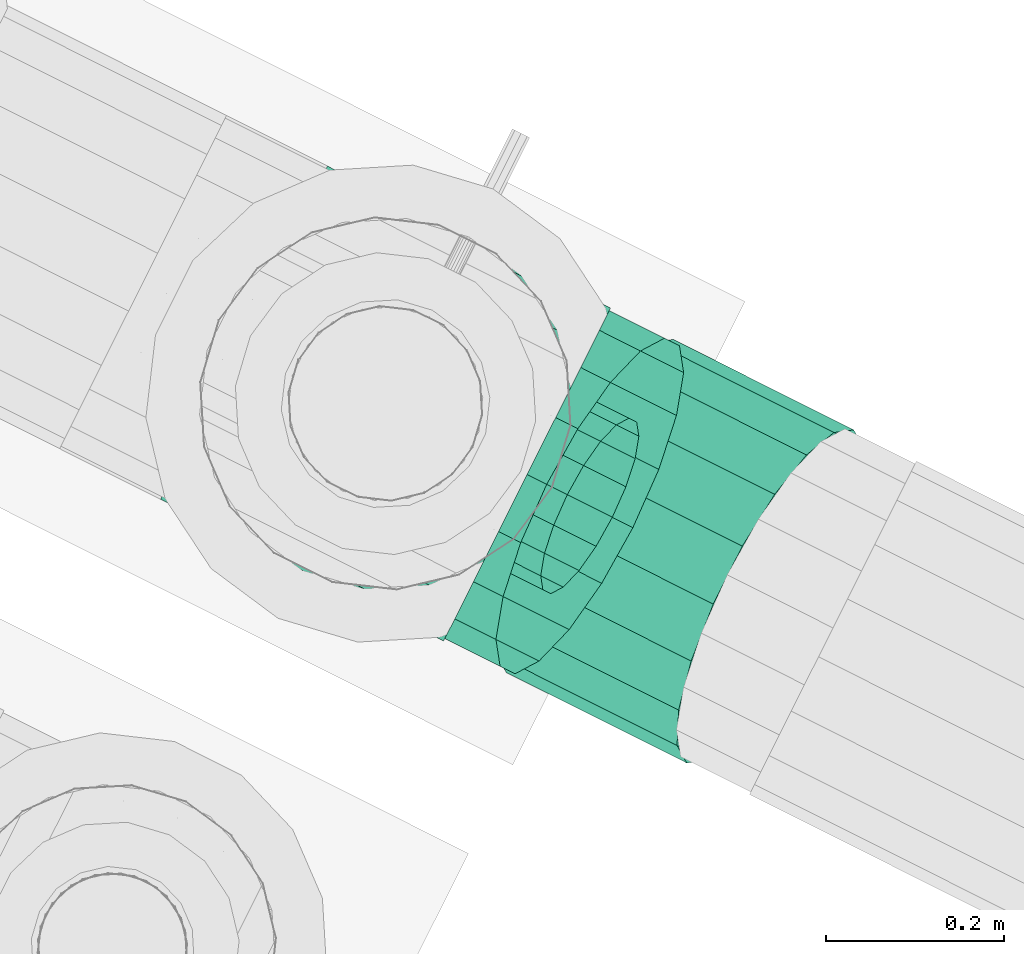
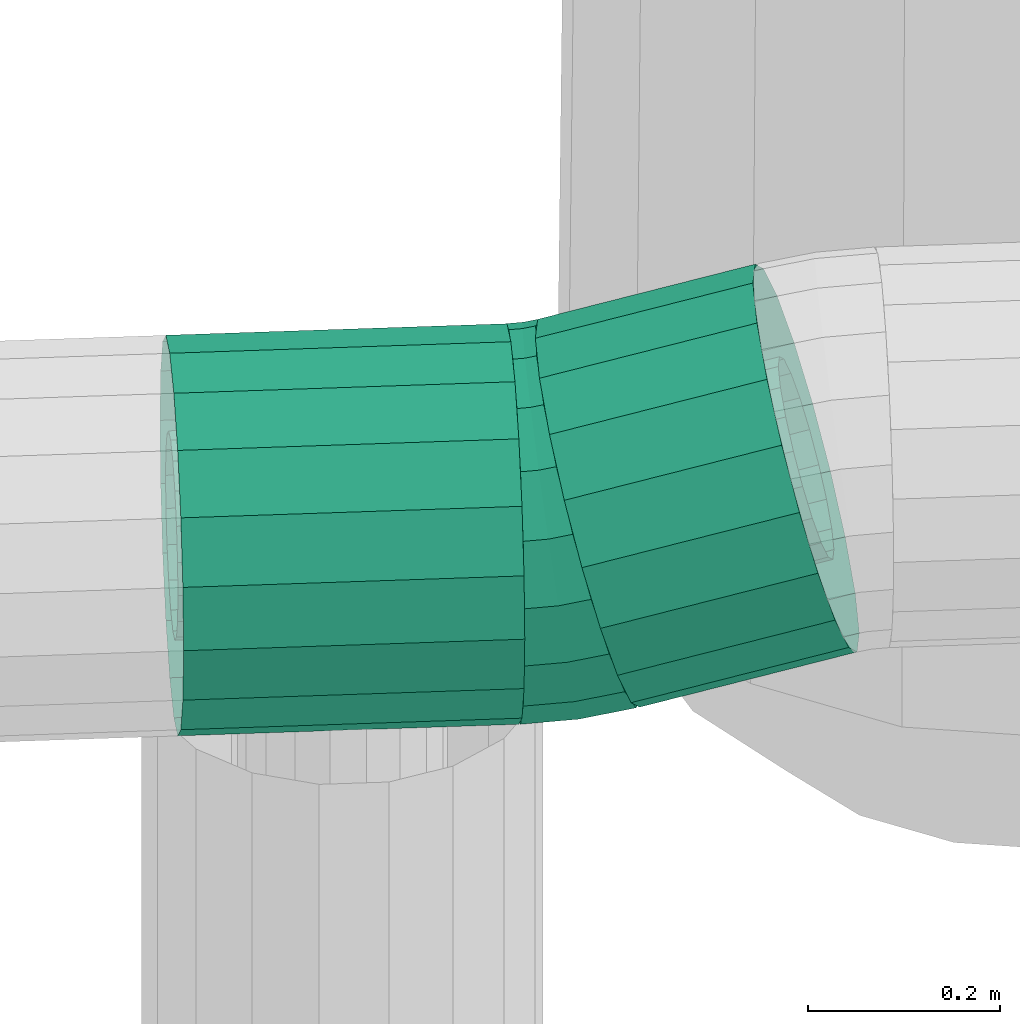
# One storey, part 142 of 152: 2 flow segments, 1 flow fitting.
"""IFC2X3 building model written with IfcOpenShell, lengths in metres."""

from ifc_helpers import new_model, si_unit, derived_unit, direction, frame, origin, place, context, subcontext, project, spatial, face_set, surface_model, source, transform, mapped, material, type_object, type_shapes, element, save


model = new_model("IFC2X3")

# Units and contexts
model_context = context("Model", 3, precision=5.2338327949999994e-05, world=origin(), true_north=direction((0.0, 1.0)))
body_context = subcontext(model_context, "Body", "Model", "MODEL_VIEW")
ifc_project = project(units=[si_unit("LENGTHUNIT", "METRE"), si_unit("AREAUNIT", "SQUARE_METRE"), si_unit("VOLUMEUNIT", "CUBIC_METRE"), si_unit("MASSUNIT", "GRAM", prefix="KILO"), si_unit("PLANEANGLEUNIT", "RADIAN"), derived_unit("THERMALTRANSMITTANCEUNIT", [(si_unit("MASSUNIT", "GRAM", prefix="KILO"), 1), (si_unit("THERMODYNAMICTEMPERATUREUNIT", "KELVIN"), -1), (si_unit("TIMEUNIT", "SECOND"), -3)])], contexts=[model_context])

# Site, building, storey
site_placement = place(None, frame((0.0, 0.0, 0.0), z_axis=(0.0, 0.0, 1.0), x_axis=(0.8939966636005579, -0.4480736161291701, 0.0)))
site = spatial("IfcSite", under=ifc_project, at=site_placement, Name="Default", CompositionType="ELEMENT")
building_placement = place(site_placement, origin())
building = spatial("IfcBuilding", under=site, at=building_placement, CompositionType="ELEMENT")
storey_placement = place(building_placement, frame((0.0, 0.0, 2.7499999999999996)))
storey = spatial("IfcBuildingStorey", under=building, at=storey_placement, Name="1. Obergeschoss", CompositionType="ELEMENT", Elevation=2.7499999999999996)

# Flow fitting
ifc_material = material(Name="IfcSurfaceStyle #1741")
distribution_element_type_1 = type_object("IfcDistributionElementType", Name="Abzweigstück 247876:Abzweigstück 247876", material=ifc_material)
shared_shape_1 = source(origin(), body_context, "Body", "SurfaceModel", [
    surface_model("IfcFaceBasedSurfaceModel", [(11.903814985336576, 7.902658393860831, 5.554028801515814), (11.903814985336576, 7.909265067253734, 5.591497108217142), (11.547814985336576, 7.909265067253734, 5.591497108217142), (11.547814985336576, 7.902658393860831, 5.554028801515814), (11.903814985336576, 7.928288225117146, 5.624446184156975), (11.547814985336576, 7.928288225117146, 5.624446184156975), (11.903814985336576, 7.957433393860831, 5.6489018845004), (11.547814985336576, 7.957433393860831, 5.6489018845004), (11.903814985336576, 7.993185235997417, 5.661914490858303), (11.547814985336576, 7.993185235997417, 5.661914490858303), (11.903814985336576, 8.03123155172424, 5.661914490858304), (11.547814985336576, 8.03123155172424, 5.661914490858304), (11.903814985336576, 8.06698339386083, 5.648901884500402), (11.547814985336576, 8.06698339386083, 5.648901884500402), (11.903814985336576, 8.096128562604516, 5.624446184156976), (11.547814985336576, 8.096128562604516, 5.624446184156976), (11.903814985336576, 8.115151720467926, 5.591497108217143), (11.547814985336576, 8.115151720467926, 5.591497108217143), (11.903814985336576, 8.121758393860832, 5.554028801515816), (11.547814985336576, 8.121758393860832, 5.554028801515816), (11.903814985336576, 8.115151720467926, 5.516560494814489), (11.547814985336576, 8.115151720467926, 5.516560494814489), (11.903814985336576, 8.096128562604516, 5.483611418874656), (11.547814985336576, 8.096128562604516, 5.483611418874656), (11.903814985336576, 8.06698339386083, 5.45915571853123), (11.547814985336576, 8.06698339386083, 5.45915571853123), (11.903814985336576, 8.031231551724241, 5.446143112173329), (11.547814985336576, 8.031231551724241, 5.446143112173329), (11.903814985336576, 7.9931852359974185, 5.446143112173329), (11.547814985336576, 7.9931852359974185, 5.446143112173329), (11.903814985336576, 7.957433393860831, 5.459155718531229), (11.547814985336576, 7.957433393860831, 5.459155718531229), (11.903814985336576, 7.928288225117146, 5.483611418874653), (11.547814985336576, 7.928288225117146, 5.483611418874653), (11.903814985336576, 7.909265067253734, 5.516560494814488), (11.547814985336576, 7.909265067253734, 5.516560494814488), (11.903814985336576, 7.8026583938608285, 5.5540288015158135), (11.903814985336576, 7.815295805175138, 5.625699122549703), (11.547814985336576, 7.8152958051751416, 5.625699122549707), (11.547814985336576, 7.80265839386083, 5.5540288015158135), (11.903814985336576, 7.851683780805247, 5.688724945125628), (11.547814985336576, 7.851683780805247, 5.688724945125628), (11.903814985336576, 7.90743339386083, 5.735504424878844), (11.547814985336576, 7.90743339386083, 5.735504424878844), (11.903814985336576, 7.975820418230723, 5.760395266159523), (11.547814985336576, 7.975820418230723, 5.760395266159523), (11.903814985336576, 8.048596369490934, 5.760395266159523), (11.547814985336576, 8.048596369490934, 5.760395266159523), (11.903814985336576, 8.11698339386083, 5.735504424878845), (11.547814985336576, 8.11698339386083, 5.735504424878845), (11.903814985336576, 8.172733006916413, 5.6887249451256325), (11.547814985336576, 8.172733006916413, 5.6887249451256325), (11.903814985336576, 8.209120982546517, 5.625699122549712), (11.547814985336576, 8.209120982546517, 5.625699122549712), (11.903814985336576, 8.22175839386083, 5.554028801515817), (11.547814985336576, 8.22175839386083, 5.554028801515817), (11.903814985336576, 8.20912098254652, 5.482358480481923), (11.547814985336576, 8.20912098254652, 5.482358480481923), (11.903814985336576, 8.172733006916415, 5.419332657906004), (11.547814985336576, 8.172733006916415, 5.419332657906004), (11.903814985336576, 8.11698339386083, 5.372553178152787), (11.547814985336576, 8.11698339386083, 5.372553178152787), (11.903814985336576, 8.048596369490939, 5.347662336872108), (11.547814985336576, 8.048596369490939, 5.347662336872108), (11.903814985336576, 7.975820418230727, 5.347662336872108), (11.547814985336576, 7.975820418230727, 5.347662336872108), (11.903814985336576, 7.907433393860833, 5.372553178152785), (11.547814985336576, 7.907433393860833, 5.372553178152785), (11.903814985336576, 7.851683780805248, 5.419332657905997), (11.547814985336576, 7.851683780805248, 5.419332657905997), (11.903814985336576, 7.815295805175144, 5.4823584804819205), (11.547814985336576, 7.815295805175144, 5.4823584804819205), (11.616264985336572, 8.012208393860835, 5.444478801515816), (11.622871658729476, 8.04967670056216, 5.451085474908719), (11.62287165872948, 8.04967670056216, 5.376028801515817), (11.616264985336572, 8.012208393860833, 5.376028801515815), (11.641894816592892, 8.082625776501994, 5.470108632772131), (11.641894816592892, 8.082625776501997, 5.376028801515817), (11.671039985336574, 8.10708147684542, 5.499253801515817), (11.671039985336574, 8.10708147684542, 5.376028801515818), (11.706791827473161, 8.120094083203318, 5.535005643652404), (11.706791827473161, 8.12009408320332, 5.376028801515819), (11.744838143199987, 8.120094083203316, 5.535005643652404), (11.744838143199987, 8.12009408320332, 5.376028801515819), (11.780589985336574, 8.10708147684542, 5.499253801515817), (11.780589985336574, 8.10708147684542, 5.376028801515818), (11.80973515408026, 8.082625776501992, 5.470108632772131), (11.80973515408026, 8.082625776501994, 5.376028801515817), (11.82875831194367, 8.04967670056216, 5.451085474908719), (11.82875831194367, 8.04967670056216, 5.376028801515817), (11.835364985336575, 8.012208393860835, 5.444478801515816), (11.835364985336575, 8.012208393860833, 5.376028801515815), (11.82875831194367, 7.974740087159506, 5.4510854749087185), (11.82875831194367, 7.974740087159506, 5.376028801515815), (11.80973515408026, 7.941791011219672, 5.4701086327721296), (11.80973515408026, 7.941791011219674, 5.376028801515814), (11.780589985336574, 7.91733531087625, 5.499253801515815), (11.780589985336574, 7.917335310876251, 5.376028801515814), (11.744838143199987, 7.904322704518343, 5.5350056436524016), (11.744838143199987, 7.904322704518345, 5.376028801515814), (11.706791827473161, 7.904322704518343, 5.5350056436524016), (11.706791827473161, 7.904322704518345, 5.376028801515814), (11.671039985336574, 7.91733531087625, 5.499253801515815), (11.671039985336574, 7.917335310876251, 5.376028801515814), (11.641894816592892, 7.941791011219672, 5.4701086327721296), (11.641894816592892, 7.9417910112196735, 5.376028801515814), (11.62287165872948, 7.974740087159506, 5.4510854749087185), (11.62287165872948, 7.974740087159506, 5.376028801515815)], [face_set([[[0, 1, 2, 3]], [[1, 4, 5, 2]], [[4, 6, 7, 5]], [[6, 8, 9, 7]], [[8, 10, 11, 9]], [[10, 12, 13, 11]], [[12, 14, 15, 13]], [[14, 16, 17, 15]], [[16, 18, 19, 17]], [[18, 20, 21, 19]], [[20, 22, 23, 21]], [[22, 24, 25, 23]], [[24, 26, 27, 25]], [[26, 28, 29, 27]], [[28, 30, 31, 29]], [[30, 32, 33, 31]], [[32, 34, 35, 33]], [[34, 0, 3, 35]], [[36, 37, 38, 39]], [[37, 40, 41, 38]], [[40, 42, 43, 41]], [[42, 44, 45, 43]], [[44, 46, 47, 45]], [[46, 48, 49, 47]], [[48, 50, 51, 49]], [[50, 52, 53, 51]], [[52, 54, 55, 53]], [[54, 56, 57, 55]], [[56, 58, 59, 57]], [[58, 60, 61, 59]], [[60, 62, 63, 61]], [[62, 64, 65, 63]], [[64, 66, 67, 65]], [[66, 68, 69, 67]], [[68, 70, 71, 69]], [[70, 36, 39, 71]], [[72, 73, 74, 75]], [[73, 76, 77, 74]], [[76, 78, 79, 77]], [[78, 80, 81, 79]], [[80, 82, 83, 81]], [[82, 84, 85, 83]], [[84, 86, 87, 85]], [[86, 88, 89, 87]], [[88, 90, 91, 89]], [[90, 92, 93, 91]], [[92, 94, 95, 93]], [[94, 96, 97, 95]], [[96, 98, 99, 97]], [[98, 100, 101, 99]], [[100, 102, 103, 101]], [[102, 104, 105, 103]], [[104, 106, 107, 105]], [[106, 72, 75, 107]]])]),
])
type_shapes(distribution_element_type_1, [shared_shape_1])
flow_fitting_placement = place(storey_placement, frame((0.0, 0.0, -2.7499999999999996)))
element("IfcFlowFitting", 1, at=flow_fitting_placement, inside=storey, type_object=distribution_element_type_1, material=ifc_material, Name="Abzweigstück", ObjectType="Abzweigstück", context=body_context, shape_type="MappedRepresentation", body=[
    mapped(shared_shape_1, transform((0.0, 0.0, 0.0), scale=1.0)),
])

# Flow segments
distribution_element_type_2 = type_object("IfcDistributionElementType", Name="Rohrbogen 248180:Rohrbogen 248180", material=ifc_material)
shared_shape_2 = source(origin(), body_context, "Body", "SurfaceModel", [
    surface_model("IfcFaceBasedSurfaceModel", [(12.011108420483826, 8.012208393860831, 5.458604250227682), (12.00939848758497, 7.974740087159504, 5.464985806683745), (11.957062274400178, 7.974740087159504, 5.454575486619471), (11.957924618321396, 8.012208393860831, 5.448025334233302), (11.903814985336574, 7.974740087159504, 5.4510854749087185), (11.903814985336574, 8.012208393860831, 5.444478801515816), (12.004474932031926, 7.941791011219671, 5.4833607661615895), (11.954579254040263, 7.94179101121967, 5.473435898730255), (11.90381498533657, 7.94179101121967, 5.47010863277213), (11.996931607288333, 7.917335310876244, 5.511512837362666), (11.950775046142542, 7.917335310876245, 5.502331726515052), (11.903814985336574, 7.917335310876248, 5.499253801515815), (11.987678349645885, 7.904322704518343, 5.5460464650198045), (11.946108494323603, 7.904322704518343, 5.537777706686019), (11.90381498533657, 7.904322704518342, 5.535005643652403), (11.977831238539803, 7.904322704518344, 5.582796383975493), (11.941142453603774, 7.904322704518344, 5.575498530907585), (11.90381498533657, 7.904322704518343, 5.573051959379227), (11.968577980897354, 7.917335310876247, 5.6173300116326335), (11.936475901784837, 7.917335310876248, 5.610944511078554), (11.903814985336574, 7.917335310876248, 5.608803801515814), (11.961034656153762, 7.941791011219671, 5.645482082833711), (11.932671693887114, 7.94179101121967, 5.63984033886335), (11.90381498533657, 7.94179101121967, 5.637948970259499), (11.956111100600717, 7.974740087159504, 5.6638570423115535), (11.930188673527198, 7.974740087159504, 5.658700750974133), (11.90381498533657, 7.974740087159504, 5.656972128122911), (11.954401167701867, 8.012208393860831, 5.670238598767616), (11.929326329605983, 8.012208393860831, 5.665250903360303), (11.903814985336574, 8.012208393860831, 5.663578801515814), (11.956111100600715, 8.04967670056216, 5.6638570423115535), (11.930188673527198, 8.04967670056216, 5.658700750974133), (11.90381498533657, 8.049676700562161, 5.656972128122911), (11.96103465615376, 8.082625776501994, 5.645482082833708), (11.93267169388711, 8.082625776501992, 5.63984033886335), (11.903814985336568, 8.082625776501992, 5.637948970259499), (11.968577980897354, 8.107081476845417, 5.617330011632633), (11.936475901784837, 8.10708147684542, 5.610944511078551), (11.903814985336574, 8.10708147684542, 5.608803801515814), (11.977831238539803, 8.12009408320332, 5.5827963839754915), (11.941142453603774, 8.12009408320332, 5.575498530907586), (11.90381498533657, 8.120094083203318, 5.573051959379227), (11.987678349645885, 8.12009408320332, 5.5460464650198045), (11.946108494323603, 8.120094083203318, 5.537777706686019), (11.90381498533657, 8.120094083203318, 5.535005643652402), (11.996931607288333, 8.107081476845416, 5.511512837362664), (11.950775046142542, 8.107081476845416, 5.5023317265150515), (11.903814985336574, 8.10708147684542, 5.499253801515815), (12.004474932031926, 8.082625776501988, 5.4833607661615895), (11.954579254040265, 8.08262577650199, 5.473435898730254), (11.90381498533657, 8.082625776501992, 5.4701086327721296), (12.009398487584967, 8.049676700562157, 5.464985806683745), (11.957062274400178, 8.049676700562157, 5.45457548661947), (11.903814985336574, 8.049676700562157, 5.4510854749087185), (12.036990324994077, 8.012208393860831, 5.362011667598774), (12.033719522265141, 7.940538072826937, 5.374218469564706), (11.969327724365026, 7.9405380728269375, 5.3614101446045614), (11.970977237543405, 8.012208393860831, 5.34888084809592), (11.903814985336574, 7.9405380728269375, 5.357116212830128), (11.903814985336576, 8.012208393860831, 5.344478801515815), (12.024301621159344, 7.877512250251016, 5.409366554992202), (11.96457814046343, 7.877512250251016, 5.397486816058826), (11.90381498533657, 7.877512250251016, 5.393504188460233), (12.009872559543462, 7.830732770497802, 5.463216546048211), (11.957301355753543, 7.830732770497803, 5.4527594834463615), (11.903814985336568, 7.830732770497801, 5.449253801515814), (11.992172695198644, 7.805841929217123, 5.529273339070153), (11.948375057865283, 7.805841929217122, 5.520561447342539), (11.903814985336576, 7.805841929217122, 5.5176408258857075), (11.973336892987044, 7.805841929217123, 5.5995695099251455), (11.938875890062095, 7.805841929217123, 5.592714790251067), (11.903814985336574, 7.805841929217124, 5.5904167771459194), (11.955637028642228, 7.830732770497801, 5.6656263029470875), (11.929949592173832, 7.830732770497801, 5.660516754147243), (11.90381498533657, 7.830732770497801, 5.658803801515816), (11.941207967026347, 7.877512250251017, 5.719476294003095), (11.922672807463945, 7.877512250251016, 5.715789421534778), (11.903814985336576, 7.877512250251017, 5.714553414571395), (11.931790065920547, 7.9405380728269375, 5.754624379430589), (11.917923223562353, 7.9405380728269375, 5.75186609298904), (11.903814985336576, 7.940538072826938, 5.750941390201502), (11.928519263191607, 8.012208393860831, 5.766831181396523), (11.916273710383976, 8.012208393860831, 5.764395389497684), (11.903814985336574, 8.012208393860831, 5.763578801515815), (11.931790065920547, 8.083878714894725, 5.754624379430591), (11.917923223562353, 8.083878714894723, 5.751866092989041), (11.903814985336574, 8.083878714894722, 5.750941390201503), (11.941207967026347, 8.146904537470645, 5.719476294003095), (11.922672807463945, 8.146904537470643, 5.715789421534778), (11.903814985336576, 8.146904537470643, 5.714553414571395), (11.955637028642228, 8.19368401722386, 5.665626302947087), (11.929949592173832, 8.19368401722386, 5.660516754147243), (11.90381498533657, 8.19368401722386, 5.658803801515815), (11.973336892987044, 8.218574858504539, 5.5995695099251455), (11.938875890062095, 8.218574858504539, 5.592714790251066), (11.903814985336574, 8.218574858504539, 5.5904167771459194), (11.992172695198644, 8.218574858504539, 5.529273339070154), (11.948375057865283, 8.21857485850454, 5.520561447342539), (11.903814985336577, 8.218574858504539, 5.5176408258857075), (12.00987255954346, 8.19368401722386, 5.463216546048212), (11.957301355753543, 8.19368401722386, 5.452759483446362), (11.903814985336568, 8.19368401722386, 5.449253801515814), (12.024301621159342, 8.146904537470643, 5.409366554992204), (11.964578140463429, 8.146904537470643, 5.3974868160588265), (11.90381498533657, 8.146904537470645, 5.393504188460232), (12.033719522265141, 8.083878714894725, 5.374218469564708), (11.969327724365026, 8.083878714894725, 5.3614101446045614), (11.903814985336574, 8.083878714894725, 5.357116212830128)], [face_set([[[0, 1, 2, 3]], [[3, 2, 4, 5]], [[1, 6, 7, 2]], [[2, 7, 8, 4]], [[6, 9, 10, 7]], [[7, 10, 11, 8]], [[9, 12, 13, 10]], [[10, 13, 14, 11]], [[12, 15, 16, 13]], [[13, 16, 17, 14]], [[15, 18, 19, 16]], [[16, 19, 20, 17]], [[18, 21, 22, 19]], [[19, 22, 23, 20]], [[21, 24, 25, 22]], [[22, 25, 26, 23]], [[24, 27, 28, 25]], [[25, 28, 29, 26]], [[27, 30, 31, 28]], [[28, 31, 32, 29]], [[30, 33, 34, 31]], [[31, 34, 35, 32]], [[33, 36, 37, 34]], [[34, 37, 38, 35]], [[36, 39, 40, 37]], [[37, 40, 41, 38]], [[39, 42, 43, 40]], [[40, 43, 44, 41]], [[42, 45, 46, 43]], [[43, 46, 47, 44]], [[45, 48, 49, 46]], [[46, 49, 50, 47]], [[48, 51, 52, 49]], [[49, 52, 53, 50]], [[51, 0, 3, 52]], [[52, 3, 5, 53]], [[54, 55, 56, 57]], [[57, 56, 58, 59]], [[55, 60, 61, 56]], [[56, 61, 62, 58]], [[60, 63, 64, 61]], [[61, 64, 65, 62]], [[63, 66, 67, 64]], [[64, 67, 68, 65]], [[66, 69, 70, 67]], [[67, 70, 71, 68]], [[69, 72, 73, 70]], [[70, 73, 74, 71]], [[72, 75, 76, 73]], [[73, 76, 77, 74]], [[75, 78, 79, 76]], [[76, 79, 80, 77]], [[78, 81, 82, 79]], [[79, 82, 83, 80]], [[81, 84, 85, 82]], [[82, 85, 86, 83]], [[84, 87, 88, 85]], [[85, 88, 89, 86]], [[87, 90, 91, 88]], [[88, 91, 92, 89]], [[90, 93, 94, 91]], [[91, 94, 95, 92]], [[93, 96, 97, 94]], [[94, 97, 98, 95]], [[96, 99, 100, 97]], [[97, 100, 101, 98]], [[99, 102, 103, 100]], [[100, 103, 104, 101]], [[102, 105, 106, 103]], [[103, 106, 107, 104]], [[105, 54, 57, 106]], [[106, 57, 59, 107]]])]),
])
type_shapes(distribution_element_type_2, [shared_shape_2])
flow_segment_1_placement = place(storey_placement, frame((0.0, 0.0, -2.7499999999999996)))
element("IfcFlowSegment", 2, at=flow_segment_1_placement, inside=storey, type_object=distribution_element_type_2, material=ifc_material, Name="Rohrbogen", ObjectType="Rohrbogen", context=body_context, shape_type="MappedRepresentation", body=[
    mapped(shared_shape_2, transform((0.0, 0.0, 0.0), scale=1.0)),
])
distribution_element_type_3 = type_object("IfcDistributionElementType", Name="Stahlrohr nach DIN 2448 248812:Stahlrohr nach DIN 2448 248812", material=ifc_material)
shared_shape_3 = source(origin(), body_context, "Body", "SurfaceModel", [
    surface_model("IfcFaceBasedSurfaceModel", [(11.982754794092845, 8.12175839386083, 5.564421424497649), (11.973057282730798, 8.115151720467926, 5.60061302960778), (12.200065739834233, 8.115151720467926, 5.661439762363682), (12.20976325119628, 8.121758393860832, 5.62524815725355), (11.964529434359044, 8.096128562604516, 5.632439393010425), (12.191537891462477, 8.096128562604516, 5.693266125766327), (11.958199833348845, 8.06698339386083, 5.656061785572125), (12.185208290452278, 8.066983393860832, 5.716888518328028), (11.954831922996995, 8.031231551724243, 5.668630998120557), (12.18184038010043, 8.031231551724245, 5.729457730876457), (11.954831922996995, 7.9931852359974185, 5.668630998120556), (12.18184038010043, 7.9931852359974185, 5.729457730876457), (11.958199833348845, 7.957433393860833, 5.656061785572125), (12.185208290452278, 7.957433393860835, 5.716888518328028), (11.964529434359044, 7.928288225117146, 5.632439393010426), (12.191537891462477, 7.928288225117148, 5.693266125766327), (11.973057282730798, 7.909265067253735, 5.600613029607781), (12.200065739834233, 7.909265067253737, 5.661439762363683), (11.982754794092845, 7.902658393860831, 5.564421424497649), (12.20976325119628, 7.902658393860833, 5.625248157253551), (11.992452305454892, 7.909265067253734, 5.5282298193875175), (12.219460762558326, 7.909265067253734, 5.589056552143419), (12.000980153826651, 7.928288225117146, 5.496403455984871), (12.227988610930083, 7.928288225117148, 5.557230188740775), (12.007309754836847, 7.957433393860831, 5.472781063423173), (12.234318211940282, 7.95743339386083, 5.5336077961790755), (12.010677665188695, 7.99318523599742, 5.4602118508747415), (12.23768612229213, 7.993185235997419, 5.521038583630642), (12.010677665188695, 8.031231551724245, 5.4602118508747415), (12.23768612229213, 8.031231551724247, 5.521038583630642), (12.007309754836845, 8.06698339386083, 5.47278106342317), (12.234318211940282, 8.066983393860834, 5.533607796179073), (12.000980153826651, 8.096128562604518, 5.49640345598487), (12.227988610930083, 8.096128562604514, 5.557230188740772), (11.992452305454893, 8.115151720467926, 5.5282298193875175), (12.219460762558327, 8.115151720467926, 5.5890565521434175), (11.982754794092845, 8.221758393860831, 5.564421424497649), (11.96420515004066, 8.20912098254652, 5.633649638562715), (12.191213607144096, 8.20912098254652, 5.694476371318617), (12.209763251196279, 8.221758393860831, 5.625248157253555), (11.94789286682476, 8.172733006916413, 5.69452790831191), (12.174901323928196, 8.172733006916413, 5.75535464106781), (11.935785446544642, 8.11698339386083, 5.739713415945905), (12.162793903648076, 8.116983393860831, 5.800540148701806), (11.929343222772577, 8.048596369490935, 5.763756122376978), (12.156351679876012, 8.048596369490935, 5.824582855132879), (11.929343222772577, 7.975820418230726, 5.763756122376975), (12.156351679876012, 7.975820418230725, 5.824582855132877), (11.935785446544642, 7.90743339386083, 5.739713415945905), (12.162793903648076, 7.907433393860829, 5.800540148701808), (11.94789286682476, 7.85168378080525, 5.694527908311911), (12.174901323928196, 7.851683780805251, 5.755354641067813), (11.96420515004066, 7.815295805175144, 5.633649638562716), (12.191213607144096, 7.815295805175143, 5.694476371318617), (11.982754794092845, 7.80265839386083, 5.564421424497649), (12.209763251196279, 7.80265839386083, 5.62524815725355), (12.001304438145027, 7.815295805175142, 5.495193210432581), (12.228312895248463, 7.815295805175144, 5.556019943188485), (12.017616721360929, 7.8516837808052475, 5.434314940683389), (12.244625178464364, 7.85168378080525, 5.4951416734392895), (12.029724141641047, 7.907433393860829, 5.389129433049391), (12.256732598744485, 7.907433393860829, 5.449956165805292), (12.036166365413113, 7.975820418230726, 5.365086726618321), (12.263174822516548, 7.975820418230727, 5.4259134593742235), (12.036166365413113, 8.048596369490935, 5.365086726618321), (12.263174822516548, 8.048596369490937, 5.4259134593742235), (12.029724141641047, 8.11698339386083, 5.38912943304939), (12.256732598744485, 8.116983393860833, 5.449956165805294), (12.017616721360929, 8.172733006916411, 5.434314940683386), (12.244625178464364, 8.172733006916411, 5.495141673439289), (12.001304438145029, 8.209120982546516, 5.495193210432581), (12.228312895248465, 8.20912098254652, 5.556019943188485)], [face_set([[[0, 1, 2, 3]], [[1, 4, 5, 2]], [[4, 6, 7, 5]], [[6, 8, 9, 7]], [[8, 10, 11, 9]], [[10, 12, 13, 11]], [[12, 14, 15, 13]], [[14, 16, 17, 15]], [[16, 18, 19, 17]], [[18, 20, 21, 19]], [[20, 22, 23, 21]], [[22, 24, 25, 23]], [[24, 26, 27, 25]], [[26, 28, 29, 27]], [[28, 30, 31, 29]], [[30, 32, 33, 31]], [[32, 34, 35, 33]], [[34, 0, 3, 35]], [[36, 37, 38, 39]], [[37, 40, 41, 38]], [[40, 42, 43, 41]], [[42, 44, 45, 43]], [[44, 46, 47, 45]], [[46, 48, 49, 47]], [[48, 50, 51, 49]], [[50, 52, 53, 51]], [[52, 54, 55, 53]], [[54, 56, 57, 55]], [[56, 58, 59, 57]], [[58, 60, 61, 59]], [[60, 62, 63, 61]], [[62, 64, 65, 63]], [[64, 66, 67, 65]], [[66, 68, 69, 67]], [[68, 70, 71, 69]], [[70, 36, 39, 71]]])]),
])
type_shapes(distribution_element_type_3, [shared_shape_3])
flow_segment_2_placement = place(storey_placement, frame((0.0, 0.0, -2.7499999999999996)))
element("IfcFlowSegment", 3, at=flow_segment_2_placement, inside=storey, type_object=distribution_element_type_3, material=ifc_material, Name="Stahlrohr nach DIN 2448", ObjectType="Stahlrohr nach DIN 2448", context=body_context, shape_type="MappedRepresentation", body=[
    mapped(shared_shape_3, transform((0.0, 0.0, 0.0), scale=1.0)),
])

save(model, "model.ifc")
